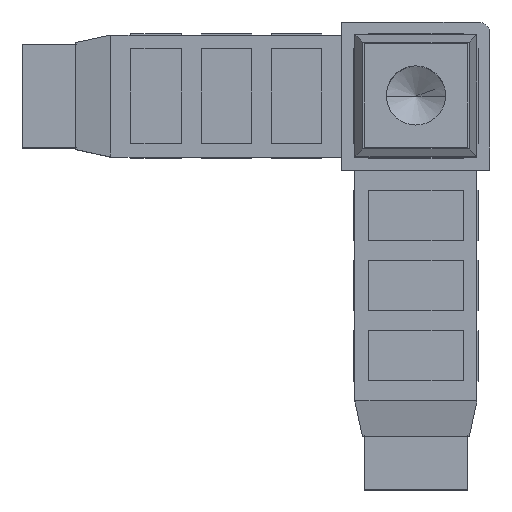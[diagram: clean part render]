
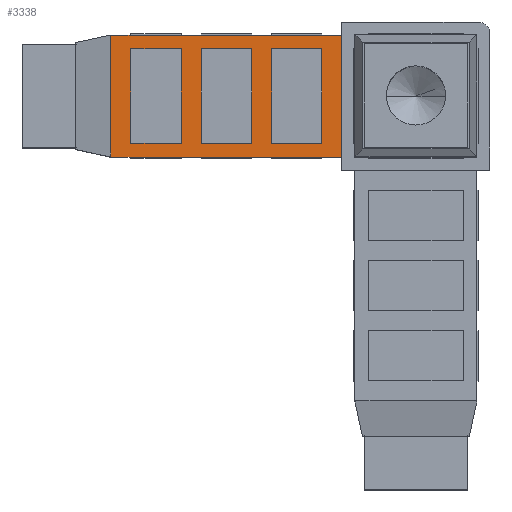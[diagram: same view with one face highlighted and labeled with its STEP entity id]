
A CAD part, top view. The second image highlights one B-rep face of the part: STEP entity #3338.
In plain terms, the highlighted planar face has unit normal (0, 0, 1).
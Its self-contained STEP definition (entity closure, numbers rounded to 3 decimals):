
#24 = CARTESIAN_POINT ( 'NONE',  ( -12.5, 10.3, 10.3 ) ) ;
#26 = DIRECTION ( 'NONE',  ( 0., 1., 0. ) ) ;
#49 = CARTESIAN_POINT ( 'NONE',  ( -27.75, 8., 10.3 ) ) ;
#124 = PLANE ( 'NONE',  #3125 ) ;
#150 = VECTOR ( 'NONE', #6193, 1000. ) ;
#233 = FACE_OUTER_BOUND ( 'NONE', #5901, .T. ) ;
#276 = EDGE_CURVE ( 'NONE', #541, #1411, #6770, .T. ) ;
#393 = CARTESIAN_POINT ( 'NONE',  ( -36.25, -8., 10.3 ) ) ;
#453 = ORIENTED_EDGE ( 'NONE', *, *, #785, .F. ) ;
#528 = LINE ( 'NONE', #4170, #3100 ) ;
#537 = EDGE_CURVE ( 'NONE', #6261, #541, #1807, .T. ) ;
#541 = VERTEX_POINT ( 'NONE', #1951 ) ;
#547 = VERTEX_POINT ( 'NONE', #3063 ) ;
#552 = EDGE_CURVE ( 'NONE', #5250, #5461, #528, .T. ) ;
#579 = CARTESIAN_POINT ( 'NONE',  ( -27.75, 8., 10.3 ) ) ;
#603 = DIRECTION ( 'NONE',  ( -1., 0., 0. ) ) ;
#621 = ORIENTED_EDGE ( 'NONE', *, *, #5677, .F. ) ;
#693 = LINE ( 'NONE', #49, #4548 ) ;
#710 = CARTESIAN_POINT ( 'NONE',  ( -24.375, 8., 10.3 ) ) ;
#764 = VECTOR ( 'NONE', #1228, 1000. ) ;
#785 = EDGE_CURVE ( 'NONE', #5461, #4292, #1107, .T. ) ;
#817 = EDGE_CURVE ( 'NONE', #3366, #1315, #5134, .T. ) ;
#905 = ORIENTED_EDGE ( 'NONE', *, *, #4436, .F. ) ;
#979 = ORIENTED_EDGE ( 'NONE', *, *, #3655, .T. ) ;
#1107 = LINE ( 'NONE', #2697, #3861 ) ;
#1127 = VECTOR ( 'NONE', #2437, 1000. ) ;
#1131 = DIRECTION ( 'NONE',  ( 0., 1., 0. ) ) ;
#1175 = LINE ( 'NONE', #2601, #2446 ) ;
#1225 = DIRECTION ( 'NONE',  ( 0., 0., -1. ) ) ;
#1228 = DIRECTION ( 'NONE',  ( 0., -1., 0. ) ) ;
#1247 = DIRECTION ( 'NONE',  ( 0., -1., 0. ) ) ;
#1301 = VERTEX_POINT ( 'NONE', #24 ) ;
#1315 = VERTEX_POINT ( 'NONE', #2192 ) ;
#1348 = FACE_BOUND ( 'NONE', #3725, .T. ) ;
#1369 = LINE ( 'NONE', #6446, #7023 ) ;
#1405 = CARTESIAN_POINT ( 'NONE',  ( -39.625, 8., 10.3 ) ) ;
#1411 = VERTEX_POINT ( 'NONE', #1749 ) ;
#1451 = LINE ( 'NONE', #579, #2734 ) ;
#1573 = VECTOR ( 'NONE', #5866, 1000. ) ;
#1600 = CARTESIAN_POINT ( 'NONE',  ( -48.125, -8., 10.3 ) ) ;
#1607 = VECTOR ( 'NONE', #1247, 1000. ) ;
#1749 = CARTESIAN_POINT ( 'NONE',  ( -48.125, 8., 10.3 ) ) ;
#1772 = LINE ( 'NONE', #710, #1607 ) ;
#1796 = CARTESIAN_POINT ( 'NONE',  ( -51.5, 10.3, 10.3 ) ) ;
#1807 = LINE ( 'NONE', #1405, #6014 ) ;
#1830 = VERTEX_POINT ( 'NONE', #1600 ) ;
#1893 = VECTOR ( 'NONE', #4757, 1000. ) ;
#1951 = CARTESIAN_POINT ( 'NONE',  ( -39.625, 8., 10.3 ) ) ;
#1982 = VERTEX_POINT ( 'NONE', #5179 ) ;
#2004 = CARTESIAN_POINT ( 'NONE',  ( -12.5, -10.3, 10.3 ) ) ;
#2164 = VERTEX_POINT ( 'NONE', #2611 ) ;
#2192 = CARTESIAN_POINT ( 'NONE',  ( -51.5, -10.3, 10.3 ) ) ;
#2361 = ORIENTED_EDGE ( 'NONE', *, *, #5152, .F. ) ;
#2437 = DIRECTION ( 'NONE',  ( -1., 0., 0. ) ) ;
#2446 = VECTOR ( 'NONE', #3153, 1000. ) ;
#2455 = EDGE_CURVE ( 'NONE', #6800, #547, #1772, .T. ) ;
#2470 = EDGE_CURVE ( 'NONE', #1830, #6261, #3070, .T. ) ;
#2509 = ORIENTED_EDGE ( 'NONE', *, *, #2681, .T. ) ;
#2545 = DIRECTION ( 'NONE',  ( 0., 1., 0. ) ) ;
#2601 = CARTESIAN_POINT ( 'NONE',  ( -48.125, 8., 10.3 ) ) ;
#2611 = CARTESIAN_POINT ( 'NONE',  ( -15.875, 8., 10.3 ) ) ;
#2681 = EDGE_CURVE ( 'NONE', #7077, #1301, #5716, .T. ) ;
#2697 = CARTESIAN_POINT ( 'NONE',  ( -27.75, -8., 10.3 ) ) ;
#2734 = VECTOR ( 'NONE', #1131, 1000. ) ;
#2747 = EDGE_CURVE ( 'NONE', #1411, #1830, #1175, .T. ) ;
#2756 = CARTESIAN_POINT ( 'NONE',  ( -15.875, 8., 10.3 ) ) ;
#3063 = CARTESIAN_POINT ( 'NONE',  ( -24.375, -8., 10.3 ) ) ;
#3070 = LINE ( 'NONE', #4009, #150 ) ;
#3100 = VECTOR ( 'NONE', #6337, 1000. ) ;
#3125 = AXIS2_PLACEMENT_3D ( 'NONE', #3956, #1225, #5053 ) ;
#3153 = DIRECTION ( 'NONE',  ( 0., -1., 0. ) ) ;
#3285 = CARTESIAN_POINT ( 'NONE',  ( -39.625, -8., 10.3 ) ) ;
#3338 = ADVANCED_FACE ( 'NONE', ( #4269, #233, #1348, #6997 ), #124, .F. ) ;
#3366 = VERTEX_POINT ( 'NONE', #1796 ) ;
#3387 = DIRECTION ( 'NONE',  ( 1., 0., 0. ) ) ;
#3580 = CARTESIAN_POINT ( 'NONE',  ( -27.75, -8., 10.3 ) ) ;
#3655 = EDGE_CURVE ( 'NONE', #1315, #7077, #5939, .T. ) ;
#3725 = EDGE_LOOP ( 'NONE', ( #6126, #621, #453, #4186 ) ) ;
#3861 = VECTOR ( 'NONE', #3387, 1000. ) ;
#3874 = CARTESIAN_POINT ( 'NONE',  ( -15.875, -8., 10.3 ) ) ;
#3890 = ORIENTED_EDGE ( 'NONE', *, *, #537, .F. ) ;
#3956 = CARTESIAN_POINT ( 'NONE',  ( -57.5, -10.3, 10.3 ) ) ;
#4005 = CARTESIAN_POINT ( 'NONE',  ( -15.875, 8., 10.3 ) ) ;
#4009 = CARTESIAN_POINT ( 'NONE',  ( -39.625, -8., 10.3 ) ) ;
#4116 = VECTOR ( 'NONE', #6209, 1000. ) ;
#4170 = CARTESIAN_POINT ( 'NONE',  ( -36.25, 8., 10.3 ) ) ;
#4186 = ORIENTED_EDGE ( 'NONE', *, *, #552, .F. ) ;
#4268 = VECTOR ( 'NONE', #2545, 1000. ) ;
#4269 = FACE_BOUND ( 'NONE', #5007, .T. ) ;
#4292 = VERTEX_POINT ( 'NONE', #3580 ) ;
#4364 = EDGE_CURVE ( 'NONE', #547, #5162, #6596, .T. ) ;
#4436 = EDGE_CURVE ( 'NONE', #3366, #1301, #1369, .T. ) ;
#4477 = ORIENTED_EDGE ( 'NONE', *, *, #5865, .F. ) ;
#4486 = CARTESIAN_POINT ( 'NONE',  ( -36.25, 8., 10.3 ) ) ;
#4512 = CARTESIAN_POINT ( 'NONE',  ( -51.5, -10.3, 10.3 ) ) ;
#4548 = VECTOR ( 'NONE', #603, 1000. ) ;
#4757 = DIRECTION ( 'NONE',  ( 1., 0., 0. ) ) ;
#4795 = ORIENTED_EDGE ( 'NONE', *, *, #2470, .F. ) ;
#4893 = CARTESIAN_POINT ( 'NONE',  ( -39.625, 8., 10.3 ) ) ;
#4927 = ORIENTED_EDGE ( 'NONE', *, *, #4364, .F. ) ;
#5007 = EDGE_LOOP ( 'NONE', ( #4477, #2361, #4927, #6122 ) ) ;
#5053 = DIRECTION ( 'NONE',  ( -1., 0., 0. ) ) ;
#5134 = LINE ( 'NONE', #4512, #764 ) ;
#5152 = EDGE_CURVE ( 'NONE', #5162, #2164, #6346, .T. ) ;
#5162 = VERTEX_POINT ( 'NONE', #3874 ) ;
#5179 = CARTESIAN_POINT ( 'NONE',  ( -27.75, 8., 10.3 ) ) ;
#5181 = EDGE_CURVE ( 'NONE', #1982, #5250, #693, .T. ) ;
#5250 = VERTEX_POINT ( 'NONE', #4486 ) ;
#5461 = VERTEX_POINT ( 'NONE', #393 ) ;
#5554 = EDGE_LOOP ( 'NONE', ( #3890, #4795, #6007, #6951 ) ) ;
#5560 = LINE ( 'NONE', #4005, #4116 ) ;
#5677 = EDGE_CURVE ( 'NONE', #4292, #1982, #1451, .T. ) ;
#5716 = LINE ( 'NONE', #2004, #4268 ) ;
#5795 = DIRECTION ( 'NONE',  ( 0., 1., 0. ) ) ;
#5865 = EDGE_CURVE ( 'NONE', #2164, #6800, #5560, .T. ) ;
#5866 = DIRECTION ( 'NONE',  ( 1., 0., 0. ) ) ;
#5888 = ORIENTED_EDGE ( 'NONE', *, *, #817, .T. ) ;
#5901 = EDGE_LOOP ( 'NONE', ( #905, #5888, #979, #2509 ) ) ;
#5939 = LINE ( 'NONE', #6403, #1573 ) ;
#6007 = ORIENTED_EDGE ( 'NONE', *, *, #2747, .F. ) ;
#6014 = VECTOR ( 'NONE', #5795, 1000. ) ;
#6018 = CARTESIAN_POINT ( 'NONE',  ( -24.375, 8., 10.3 ) ) ;
#6122 = ORIENTED_EDGE ( 'NONE', *, *, #2455, .F. ) ;
#6126 = ORIENTED_EDGE ( 'NONE', *, *, #5181, .F. ) ;
#6181 = VECTOR ( 'NONE', #26, 1000. ) ;
#6193 = DIRECTION ( 'NONE',  ( 1., 0., 0. ) ) ;
#6209 = DIRECTION ( 'NONE',  ( -1., 0., 0. ) ) ;
#6261 = VERTEX_POINT ( 'NONE', #3285 ) ;
#6337 = DIRECTION ( 'NONE',  ( 0., -1., 0. ) ) ;
#6346 = LINE ( 'NONE', #2756, #6181 ) ;
#6373 = CARTESIAN_POINT ( 'NONE',  ( -15.875, -8., 10.3 ) ) ;
#6403 = CARTESIAN_POINT ( 'NONE',  ( -57.5, -10.3, 10.3 ) ) ;
#6446 = CARTESIAN_POINT ( 'NONE',  ( -57.5, 10.3, 10.3 ) ) ;
#6596 = LINE ( 'NONE', #6373, #1893 ) ;
#6770 = LINE ( 'NONE', #4893, #1127 ) ;
#6800 = VERTEX_POINT ( 'NONE', #6018 ) ;
#6820 = CARTESIAN_POINT ( 'NONE',  ( -12.5, -10.3, 10.3 ) ) ;
#6951 = ORIENTED_EDGE ( 'NONE', *, *, #276, .F. ) ;
#6991 = DIRECTION ( 'NONE',  ( 1., 0., 0. ) ) ;
#6997 = FACE_BOUND ( 'NONE', #5554, .T. ) ;
#7023 = VECTOR ( 'NONE', #6991, 1000. ) ;
#7077 = VERTEX_POINT ( 'NONE', #6820 ) ;
